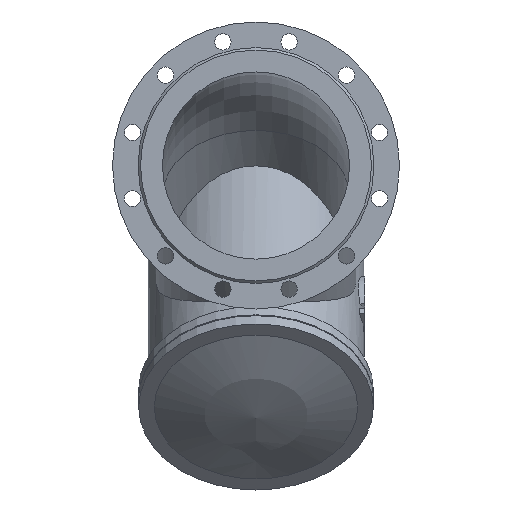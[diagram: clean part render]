
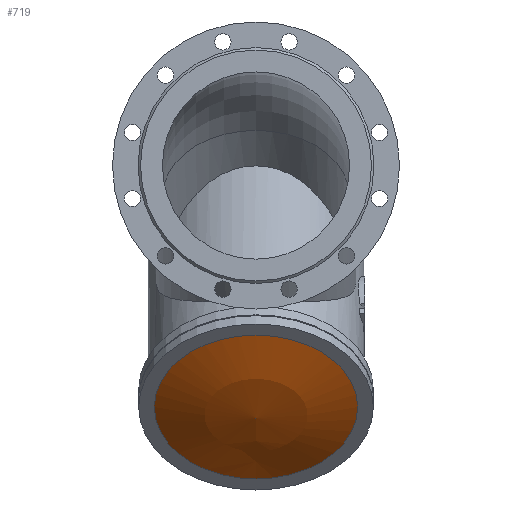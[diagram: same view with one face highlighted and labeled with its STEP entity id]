
A CAD part, front view. The second image highlights one B-rep face of the part: STEP entity #719.
In plain terms, the highlighted spherical face has radius 543.88 mm.
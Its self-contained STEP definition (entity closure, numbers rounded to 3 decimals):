
#719=ADVANCED_FACE('',(#1514),#1516,.T.);
#1514=FACE_OUTER_BOUND('',#1515,.T.);
#1515=EDGE_LOOP('',(#1878));
#1516=SPHERICAL_SURFACE('',#1517,543.88);
#1517=AXIS2_PLACEMENT_3D('',#1518,#1519,#1520);
#1518=CARTESIAN_POINT('',(0.,224.84,-20.16));
#1519=DIRECTION('',(0.,-0.707,-0.707));
#1520=DIRECTION('',(0.,0.707,-0.707));
#1878=ORIENTED_EDGE('',*,*,#2036,.T.);
#2036=EDGE_CURVE('',#2304,#2304,#2305,.T.);
#2304=VERTEX_POINT('',#3688);
#2305=CIRCLE('',#3689,163.);
#3688=CARTESIAN_POINT('',(0.,-26.806,-502.322));
#3689=AXIS2_PLACEMENT_3D('',#3690,#3691,#3692);
#3690=CARTESIAN_POINT('',(0.,-142.064,-387.064));
#3691=DIRECTION('',(0.,-0.707,-0.707));
#3692=DIRECTION('',(0.,0.707,-0.707));
